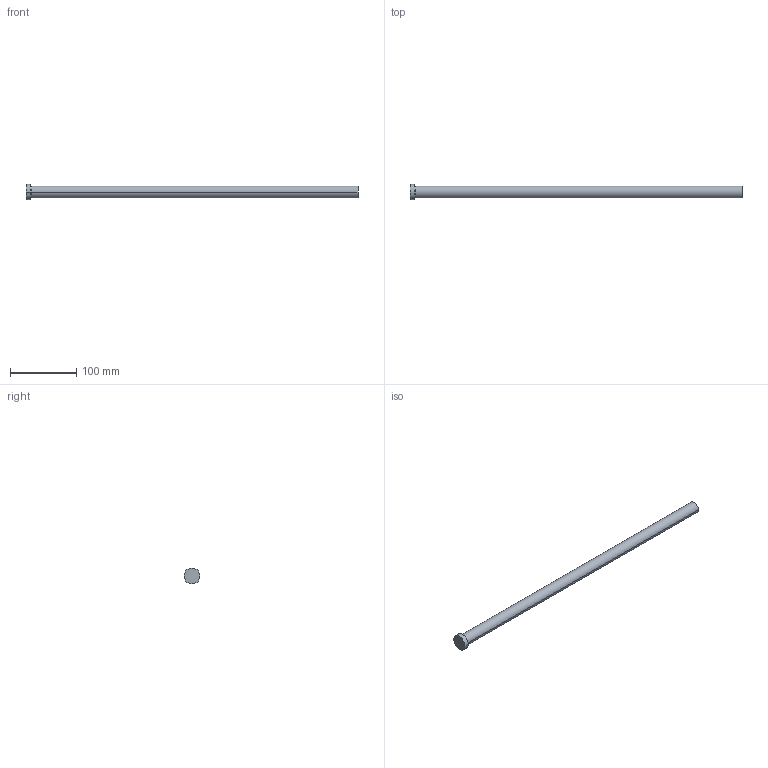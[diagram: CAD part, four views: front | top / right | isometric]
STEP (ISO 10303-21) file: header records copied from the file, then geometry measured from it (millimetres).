
FILE_DESCRIPTION (( 'STEP AP214' ), '1' );
FILE_NAME ('A-18x500.STEP', '2020-05-29T16:22:53', ( 'August' ), ( '' ), 'SwSTEP 2.0', 'SolidWorks 2018', '' );
FILE_SCHEMA (( 'AUTOMOTIVE_DESIGN' ));
Length unit declared in the file: millimetre
Products named in the file (1): A-18x500
Bounding box: 500 x 24 x 24 mm (x, y, z)
Volume: 128627.9 mm3; surface area: 29291.9 mm2
Topology: 1 solids, 1 shells, 9 faces, 16 edges, 10 vertices
Faces by surface type: cylinder 4, plane 3, torus 2
Entity records: 260 total; most frequent: DIRECTION 48, CARTESIAN_POINT 36, ORIENTED_EDGE 32, AXIS2_PLACEMENT_3D 22, EDGE_CURVE 16, CIRCLE 12, VERTEX_POINT 10, EDGE_LOOP 10
